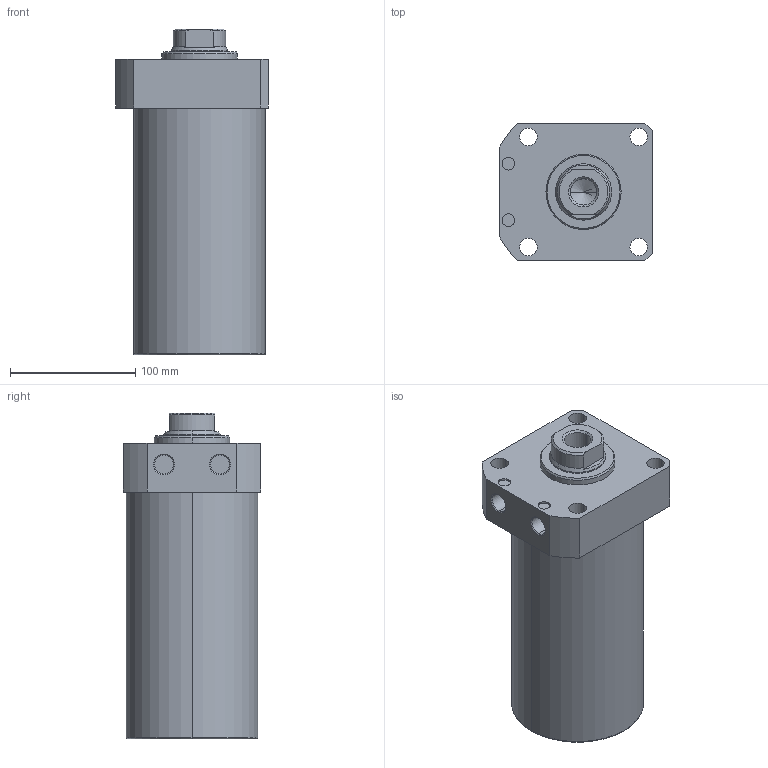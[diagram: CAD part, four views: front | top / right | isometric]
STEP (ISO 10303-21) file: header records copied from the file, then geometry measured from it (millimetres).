
FILE_DESCRIPTION (( 'STEP AP203' ), '1' );
FILE_NAME ('CLLR-105CA-150.STEP', '2019-12-18T07:18:08', ( '' ), ( '' ), 'SwSTEP 2.0', 'SolidWorks 2015', '' );
FILE_SCHEMA (( 'CONFIG_CONTROL_DESIGN' ));
Length unit declared in the file: millimetre
Products named in the file (1): CLLR-105CA-150
Bounding box: 122 x 110 x 260 mm (x, y, z)
Volume: 2202984.4 mm3; surface area: 123569.1 mm2
Topology: 1 solids, 1 shells, 65 faces, 153 edges, 96 vertices
Faces by surface type: cylinder 29, plane 19, cone 15, torus 2
Entity records: 1971 total; most frequent: DIRECTION 352, CARTESIAN_POINT 337, ORIENTED_EDGE 302, EDGE_CURVE 151, AXIS2_PLACEMENT_3D 143, VERTEX_POINT 96, EDGE_LOOP 81, CIRCLE 77
